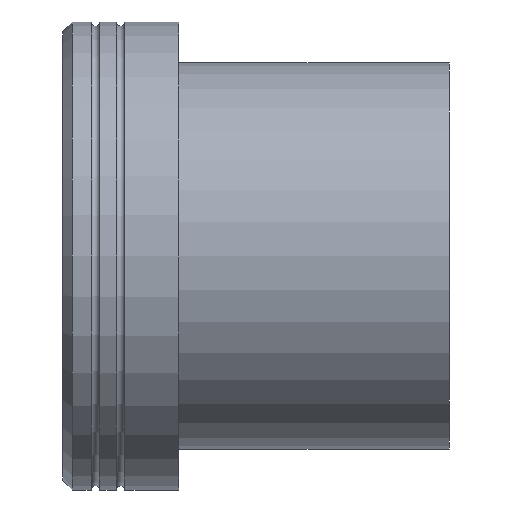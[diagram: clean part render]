
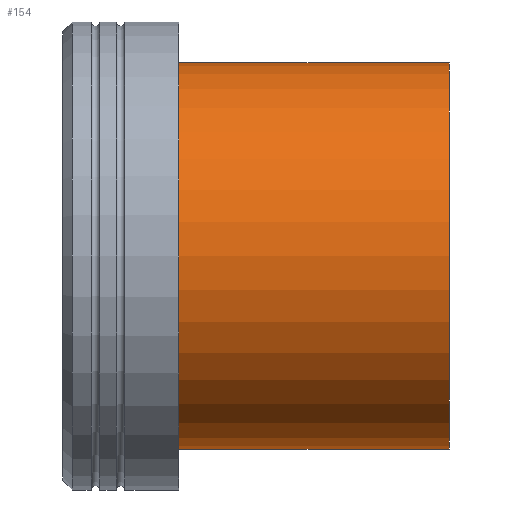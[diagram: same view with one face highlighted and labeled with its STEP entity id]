
A CAD part, front view. The second image highlights one B-rep face of the part: STEP entity #154.
In plain terms, the highlighted cylindrical face has radius 100 mm (diameter 200 mm), a full revolution.
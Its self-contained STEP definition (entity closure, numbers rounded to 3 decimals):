
#20=CYLINDRICAL_SURFACE($,#179,100.);
#33=FACE_BOUND($,#65,.T.);
#44=FACE_OUTER_BOUND($,#64,.T.);
#64=EDGE_LOOP($,(#124));
#65=EDGE_LOOP($,(#125));
#79=CIRCLE($,#178,100.);
#80=CIRCLE($,#180,100.);
#91=VERTEX_POINT($,#262);
#92=VERTEX_POINT($,#265);
#103=EDGE_CURVE($,#91,#91,#79,.T.);
#104=EDGE_CURVE($,#92,#92,#80,.T.);
#124=ORIENTED_EDGE($,*,*,#104,.F.);
#125=ORIENTED_EDGE($,*,*,#103,.T.);
#154=ADVANCED_FACE($,(#44,#33),#20,.T.);
#178=AXIS2_PLACEMENT_3D($,#263,#222,#223);
#179=AXIS2_PLACEMENT_3D($,#264,#224,#225);
#180=AXIS2_PLACEMENT_3D($,#266,#226,#227);
#222=DIRECTION('center_axis',(1.,0.,0.));
#223=DIRECTION('ref_axis',(0.,1.,0.));
#224=DIRECTION('center_axis',(1.,0.,0.));
#225=DIRECTION('ref_axis',(0.,1.,0.));
#226=DIRECTION('center_axis',(1.,0.,0.));
#227=DIRECTION('ref_axis',(0.,1.,0.));
#262=CARTESIAN_POINT('',(60.,100.,0.));
#263=CARTESIAN_POINT('Origin',(60.,0.,0.));
#264=CARTESIAN_POINT('Origin',(130.,0.,0.));
#265=CARTESIAN_POINT('',(200.,100.,0.));
#266=CARTESIAN_POINT('Origin',(200.,0.,0.));
